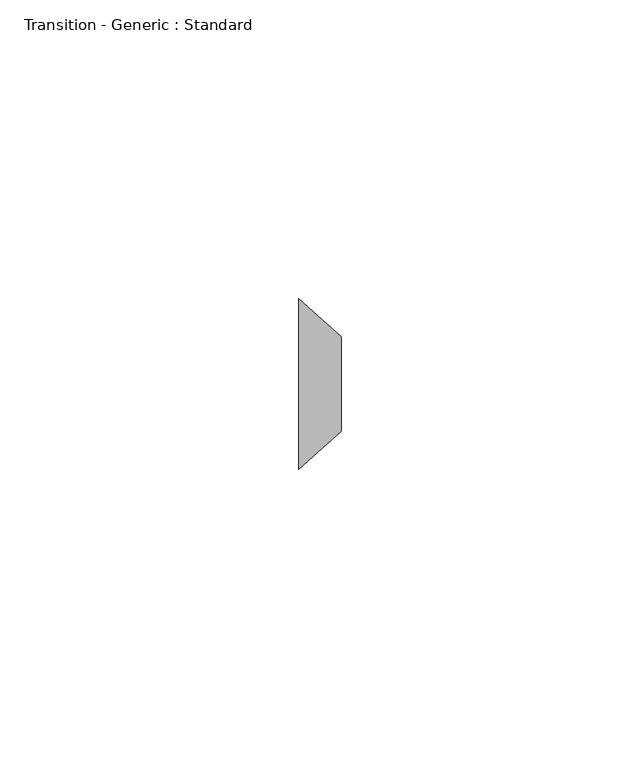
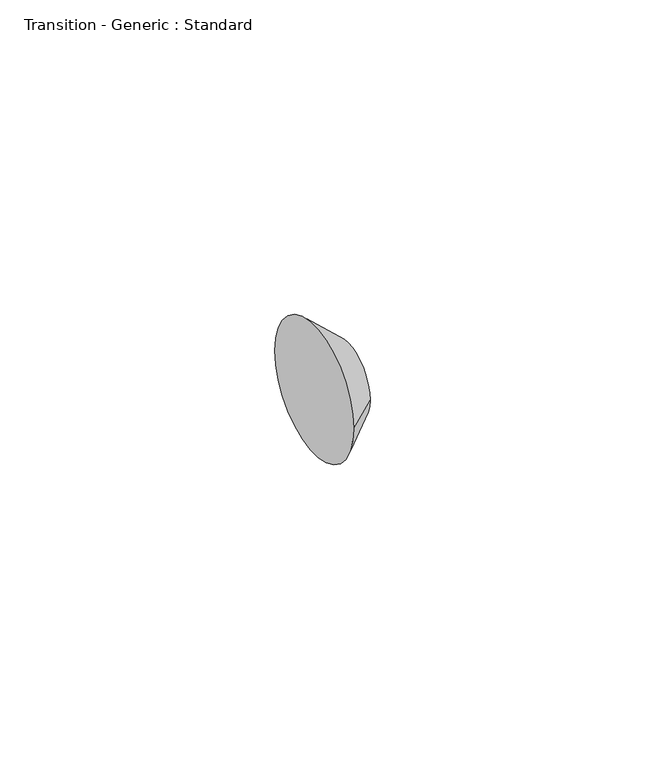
"""IFC4 building model written with IfcOpenShell, lengths in millimetres: pipe fitting geometry, Transition - Generic : Standard."""

from ifc_helpers import new_model, si_unit, frame, origin, place, context, project, spatial, polyline, circle_curve, source, transform, mapped, element, save
from ifc_brep_helpers import plane_surface, revolved_surface, advanced_brep


def transition_generic_standard_df161815(model_context):
    return source(origin(), model_context, "Body", "AdvancedBrep", [
        advanced_brep(
        [(7.14375, 7.9375, 0.0), (7.14375, -7.9375, 0.0), (0.0, 14.2875, 0.0), (0.0, -14.2875, 0.0)],
        [
            (0, 1, circle_curve(frame((7.14375, 0.0, 0.0), z_axis=(1.0, 0.0, 0.0), x_axis=(0.0, -1.0, 0.0)), 7.9375)),
            (1, 0, circle_curve(frame((7.14375, 0.0, 0.0), z_axis=(1.0, 0.0, 0.0), x_axis=(0.0, 1.0, 0.0)), 7.9375)),
            (2, 3, circle_curve(frame((0.0, 0.0, 0.0), z_axis=(-1.0, 0.0, 0.0), x_axis=(0.0, 1.0, 0.0)), 14.2875)),
            (3, 2, circle_curve(frame((0.0, 0.0, 0.0), z_axis=(-1.0, 0.0, 0.0), x_axis=(0.0, -1.0, 0.0)), 14.2875)),
            (2, 0),
            (1, 3),
        ],
        [
            plane_surface(frame((7.14375, 0.0, 0.0), z_axis=(1.0, 0.0, 0.0), x_axis=(0.0, 0.0, -1.0))),
            plane_surface(frame((0.0, 0.0, 0.0), z_axis=(-1.0, 0.0, 0.0), x_axis=(0.0, 0.0, -1.0))),
            revolved_surface(polyline([(7.143750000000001, 7.9375, 0.0), (0.0, 14.2875, 0.0)]), (16.0734375, 0.0, 0.0), (-1.0, 0.0, 0.0)),
            revolved_surface(polyline([(7.143750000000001, -7.9375, 0.0), (0.0, -14.2875, 0.0)]), (16.0734375, 0.0, 0.0), (-1.0, 0.0, 0.0)),
        ],
        [
            (0, [[1, 2]]),
            (1, [[3, 4]]),
            (2, [[5, -2, 6, -3]]),
            (3, [[-6, -1, -5, -4]]),
        ],
    ),
    ])


if __name__ == "__main__":
    model = new_model("IFC4")
    model_context = context("Model", 3, world=origin())
    ifc_project = project(units=[si_unit("LENGTHUNIT", "METRE", prefix="MILLI")], contexts=[model_context])
    site = spatial("IfcSite", under=ifc_project)
    building = spatial("IfcBuilding", under=site)
    placement = place(None, origin())
    transition_generic_standard_shape = transition_generic_standard_df161815(model_context)
    element("IfcPipeFitting", 1, ObjectType="Transition - Generic : Standard", at=placement, inside=building, context=model_context, shape_type="MappedRepresentation", body=[
        mapped(transition_generic_standard_shape, transform((0.0, 0.0, 0.0), x_axis=(1.0, 0.0, 0.0), y_axis=(0.0, 1.0, 0.0), z_axis=(0.0, 0.0, 1.0))),
    ])
    save(model, "model.ifc")
